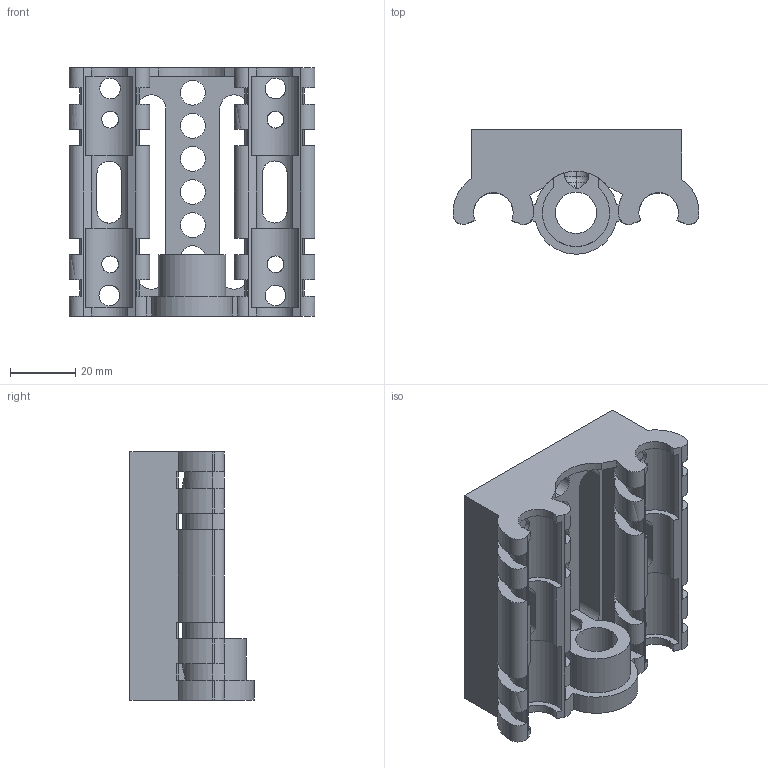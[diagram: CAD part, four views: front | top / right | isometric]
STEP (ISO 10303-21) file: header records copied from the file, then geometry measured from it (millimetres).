
FILE_DESCRIPTION (( 'STEP AP203' ), '1' );
FILE_NAME ('vert carrier.STEP', '2017-10-25T18:39:21', ( '' ), ( '' ), 'SwSTEP 2.0', 'SolidWorks 2016', '' );
FILE_SCHEMA (( 'CONFIG_CONTROL_DESIGN' ));
Length unit declared in the file: inch
Products named in the file (1): vert carrier
Bounding box: 75.55 x 38.1 x 76.2 mm (x, y, z)
Volume: 62921.7 mm3; surface area: 34890 mm2
Topology: 1 solids, 1 shells, 230 faces, 755 edges, 500 vertices
Faces by surface type: cylinder 161, plane 61, torus 4, cone 4
Entity records: 9556 total; most frequent: CARTESIAN_POINT 2527, DIRECTION 1505, ORIENTED_EDGE 1502, EDGE_CURVE 751, AXIS2_PLACEMENT_3D 578, VERTEX_POINT 500, LINE 349, VECTOR 349
